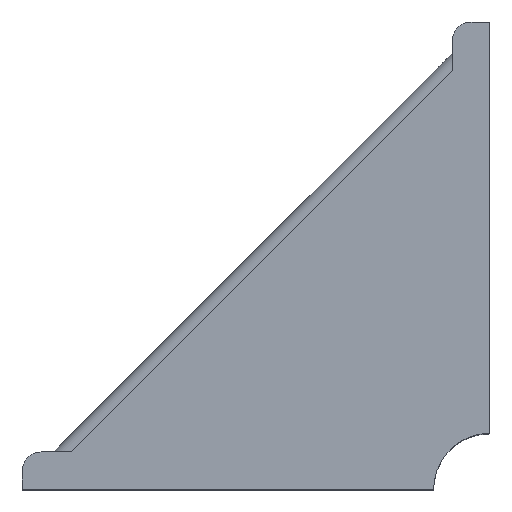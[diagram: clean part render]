
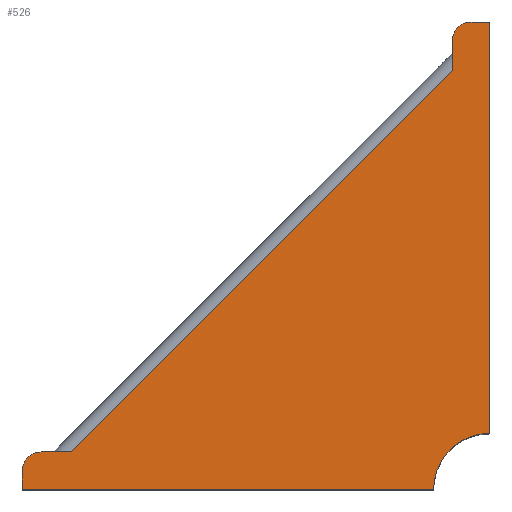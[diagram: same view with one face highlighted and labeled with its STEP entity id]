
A CAD part, top view. The second image highlights one B-rep face of the part: STEP entity #526.
In plain terms, the highlighted planar face has unit normal (0, 0, 1).
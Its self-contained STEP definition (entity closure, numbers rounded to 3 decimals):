
#82 = ORIENTED_EDGE ( 'NONE', *, *, #437, .F. ) ;
#120 = VERTEX_POINT ( 'NONE', #1164 ) ;
#205 = EDGE_CURVE ( 'NONE', #2022, #2479, #1538, .T. ) ;
#213 = DIRECTION ( 'NONE',  ( -1., 0., 0. ) ) ;
#234 = EDGE_CURVE ( 'NONE', #1966, #2081, #536, .T. ) ;
#282 = LINE ( 'NONE', #1573, #2483 ) ;
#287 = CARTESIAN_POINT ( 'NONE',  ( 19.841, 52.8, 57. ) ) ;
#317 = DIRECTION ( 'NONE',  ( -1., 0., 0. ) ) ;
#341 = EDGE_CURVE ( 'NONE', #1817, #1966, #962, .T. ) ;
#408 = AXIS2_PLACEMENT_3D ( 'NONE', #1517, #1274, #213 ) ;
#424 = DIRECTION ( 'NONE',  ( -1., 0., 0. ) ) ;
#437 = EDGE_CURVE ( 'NONE', #2081, #582, #1903, .T. ) ;
#516 = EDGE_CURVE ( 'NONE', #899, #601, #2323, .T. ) ;
#523 = ORIENTED_EDGE ( 'NONE', *, *, #234, .F. ) ;
#526 = ADVANCED_FACE ( 'NONE', ( #1699 ), #1711, .F. ) ;
#531 = DIRECTION ( 'NONE',  ( -1., 0., 0. ) ) ;
#536 = LINE ( 'NONE', #2424, #2446 ) ;
#572 = ORIENTED_EDGE ( 'NONE', *, *, #2324, .T. ) ;
#582 = VERTEX_POINT ( 'NONE', #1263 ) ;
#601 = VERTEX_POINT ( 'NONE', #842 ) ;
#639 = ORIENTED_EDGE ( 'NONE', *, *, #516, .T. ) ;
#654 = DIRECTION ( 'NONE',  ( -0.707, -0.707, 0. ) ) ;
#687 = VECTOR ( 'NONE', #1779, 1000. ) ;
#688 = LINE ( 'NONE', #2578, #2293 ) ;
#740 = CARTESIAN_POINT ( 'NONE',  ( 25.841, -13.2, 57. ) ) ;
#766 = VECTOR ( 'NONE', #1970, 1000. ) ;
#796 = CIRCLE ( 'NONE', #2595, 3. ) ;
#806 = DIRECTION ( 'NONE',  ( -1., 0., 0. ) ) ;
#819 = DIRECTION ( 'NONE',  ( 0., 0., 1. ) ) ;
#842 = CARTESIAN_POINT ( 'NONE',  ( -41.33, -16.2, 57. ) ) ;
#843 = VECTOR ( 'NONE', #1286, 1000. ) ;
#899 = VERTEX_POINT ( 'NONE', #2717 ) ;
#962 = CIRCLE ( 'NONE', #1242, 9. ) ;
#1034 = DIRECTION ( 'NONE',  ( 0., 0., 1. ) ) ;
#1136 = CARTESIAN_POINT ( 'NONE',  ( 25.841, 52.8, 57. ) ) ;
#1164 = CARTESIAN_POINT ( 'NONE',  ( 19.841, 49.8, 57. ) ) ;
#1185 = VERTEX_POINT ( 'NONE', #2269 ) ;
#1220 = EDGE_LOOP ( 'NONE', ( #1669, #2428, #82, #523, #1822, #572, #1540, #2492, #2425, #639 ) ) ;
#1242 = AXIS2_PLACEMENT_3D ( 'NONE', #1642, #1034, #1451 ) ;
#1263 = CARTESIAN_POINT ( 'NONE',  ( -49.159, -19.2, 57. ) ) ;
#1274 = DIRECTION ( 'NONE',  ( 0., 0., -1. ) ) ;
#1286 = DIRECTION ( 'NONE',  ( 0., 1., 0. ) ) ;
#1306 = CARTESIAN_POINT ( 'NONE',  ( 16.841, -22.2, 57. ) ) ;
#1370 = LINE ( 'NONE', #1430, #687 ) ;
#1397 = EDGE_CURVE ( 'NONE', #1185, #582, #2565, .T. ) ;
#1430 = CARTESIAN_POINT ( 'NONE',  ( 19.841, 47.8, 57. ) ) ;
#1451 = DIRECTION ( 'NONE',  ( 1., 0., 0. ) ) ;
#1492 = CARTESIAN_POINT ( 'NONE',  ( 22.841, 52.8, 57. ) ) ;
#1511 = EDGE_CURVE ( 'NONE', #601, #1185, #282, .T. ) ;
#1517 = CARTESIAN_POINT ( 'NONE',  ( 0., 0., 57. ) ) ;
#1538 = LINE ( 'NONE', #287, #766 ) ;
#1540 = ORIENTED_EDGE ( 'NONE', *, *, #205, .T. ) ;
#1573 = CARTESIAN_POINT ( 'NONE',  ( -49.159, -16.2, 57. ) ) ;
#1642 = CARTESIAN_POINT ( 'NONE',  ( 25.841, -22.2, 57. ) ) ;
#1669 = ORIENTED_EDGE ( 'NONE', *, *, #1511, .T. ) ;
#1699 = FACE_OUTER_BOUND ( 'NONE', #1220, .T. ) ;
#1711 = PLANE ( 'NONE',  #408 ) ;
#1743 = DIRECTION ( 'NONE',  ( 0., 1., 0. ) ) ;
#1779 = DIRECTION ( 'NONE',  ( 0., -1., 0. ) ) ;
#1817 = VERTEX_POINT ( 'NONE', #740 ) ;
#1822 = ORIENTED_EDGE ( 'NONE', *, *, #341, .F. ) ;
#1903 = LINE ( 'NONE', #2543, #843 ) ;
#1966 = VERTEX_POINT ( 'NONE', #1306 ) ;
#1970 = DIRECTION ( 'NONE',  ( -1., 0., 0. ) ) ;
#1986 = CARTESIAN_POINT ( 'NONE',  ( -49.159, -22.2, 57. ) ) ;
#2022 = VERTEX_POINT ( 'NONE', #1136 ) ;
#2081 = VERTEX_POINT ( 'NONE', #1986 ) ;
#2096 = VECTOR ( 'NONE', #654, 1000. ) ;
#2105 = CARTESIAN_POINT ( 'NONE',  ( -12.565, 12.565, 57. ) ) ;
#2118 = CARTESIAN_POINT ( 'NONE',  ( -46.159, -19.2, 57. ) ) ;
#2242 = EDGE_CURVE ( 'NONE', #2479, #120, #796, .T. ) ;
#2269 = CARTESIAN_POINT ( 'NONE',  ( -46.159, -16.2, 57. ) ) ;
#2293 = VECTOR ( 'NONE', #1743, 1000. ) ;
#2323 = LINE ( 'NONE', #2105, #2096 ) ;
#2324 = EDGE_CURVE ( 'NONE', #1817, #2022, #688, .T. ) ;
#2424 = CARTESIAN_POINT ( 'NONE',  ( -49.159, -22.2, 57. ) ) ;
#2425 = ORIENTED_EDGE ( 'NONE', *, *, #2655, .T. ) ;
#2428 = ORIENTED_EDGE ( 'NONE', *, *, #1397, .T. ) ;
#2446 = VECTOR ( 'NONE', #317, 1000. ) ;
#2479 = VERTEX_POINT ( 'NONE', #1492 ) ;
#2483 = VECTOR ( 'NONE', #531, 1000. ) ;
#2492 = ORIENTED_EDGE ( 'NONE', *, *, #2242, .T. ) ;
#2534 = DIRECTION ( 'NONE',  ( 0., 0., 1. ) ) ;
#2543 = CARTESIAN_POINT ( 'NONE',  ( -49.159, -22.2, 57. ) ) ;
#2565 = CIRCLE ( 'NONE', #2708, 3. ) ;
#2578 = CARTESIAN_POINT ( 'NONE',  ( 25.841, 52.8, 57. ) ) ;
#2595 = AXIS2_PLACEMENT_3D ( 'NONE', #2703, #819, #806 ) ;
#2655 = EDGE_CURVE ( 'NONE', #120, #899, #1370, .T. ) ;
#2703 = CARTESIAN_POINT ( 'NONE',  ( 22.841, 49.8, 57. ) ) ;
#2708 = AXIS2_PLACEMENT_3D ( 'NONE', #2118, #2534, #424 ) ;
#2717 = CARTESIAN_POINT ( 'NONE',  ( 19.841, 44.972, 57. ) ) ;
